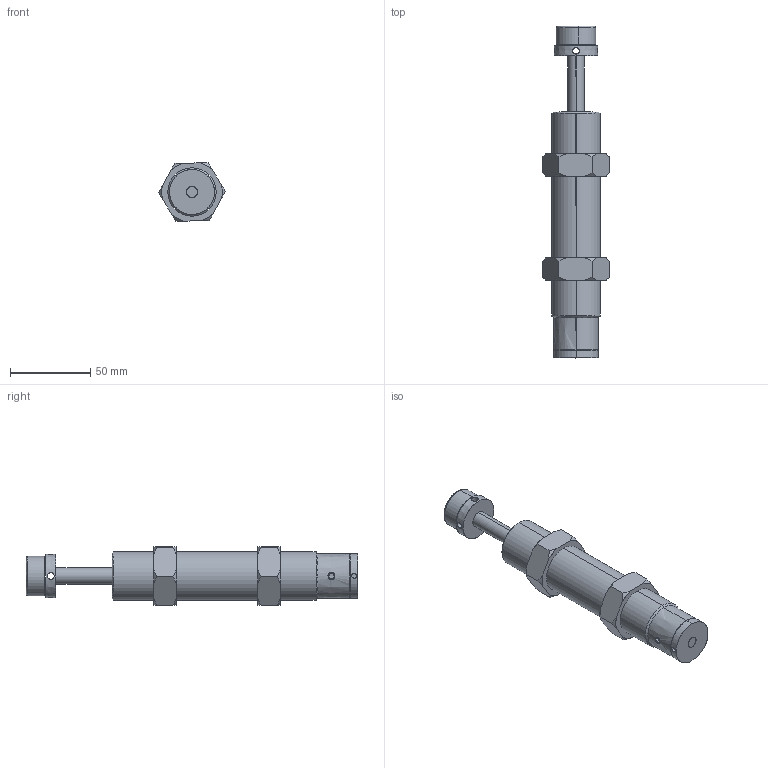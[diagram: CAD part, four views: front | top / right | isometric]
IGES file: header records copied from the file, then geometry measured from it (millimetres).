
Start section: SolidWorks IGES file using analytic representation for surfaces
Bounding box: 41.56 x 206.5 x 36.42 mm (x, y, z)
Surface area: 27506.1 mm2 (no closed solid volume)
Topology: 0 solids, 0 shells, 110 faces, 2232 edges, 2232 vertices
Faces by surface type: revolution 72, bspline 38
